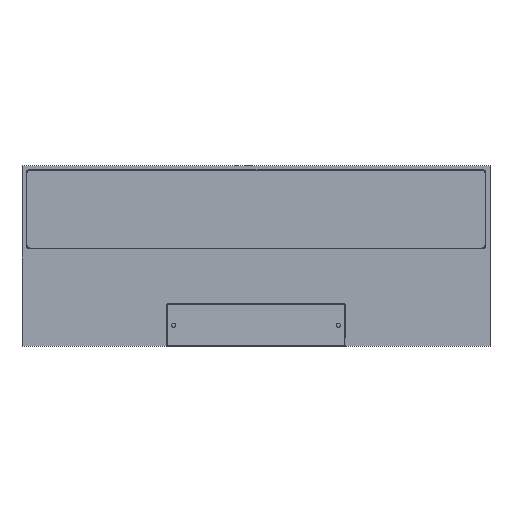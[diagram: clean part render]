
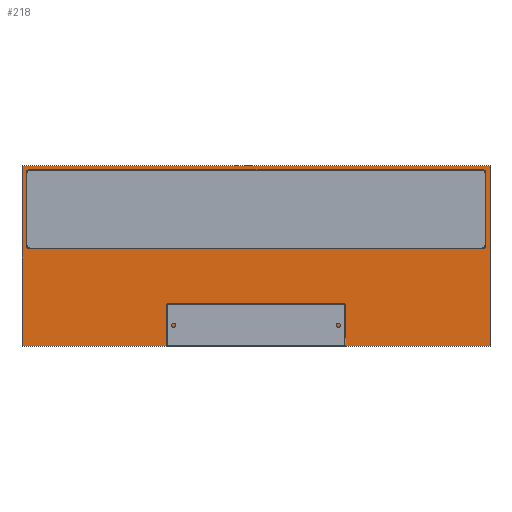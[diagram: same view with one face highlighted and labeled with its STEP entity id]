
A CAD part, top view. The second image highlights one B-rep face of the part: STEP entity #218.
In plain terms, the highlighted planar face has unit normal (0, 0, 1).
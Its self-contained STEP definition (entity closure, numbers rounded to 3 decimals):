
#33=DIRECTION('',(1.,0.,0.));
#34=VECTOR('',#33,375.);
#35=CARTESIAN_POINT('',(-187.5,-72.5,8.));
#36=LINE('',#35,#34);
#37=DIRECTION('',(0.,-1.,0.));
#38=VECTOR('',#37,145.);
#39=CARTESIAN_POINT('',(-187.5,72.5,8.));
#40=LINE('',#39,#38);
#41=DIRECTION('',(-1.,0.,0.));
#42=VECTOR('',#41,375.);
#43=CARTESIAN_POINT('',(187.5,72.5,8.));
#44=LINE('',#43,#42);
#45=DIRECTION('',(0.,1.,0.));
#46=VECTOR('',#45,145.);
#47=CARTESIAN_POINT('',(187.5,-72.5,8.));
#48=LINE('',#47,#46);
#49=DIRECTION('',(0.,-1.,0.));
#50=VECTOR('',#49,59.);
#51=CARTESIAN_POINT('',(-184.,67.,8.));
#52=LINE('',#51,#50);
#53=CARTESIAN_POINT('',(-182.,8.,8.));
#54=DIRECTION('',(0.,0.,1.));
#55=DIRECTION('',(-1.,0.,0.));
#56=AXIS2_PLACEMENT_3D('',#53,#54,#55);
#58=DIRECTION('',(1.,0.,0.));
#59=VECTOR('',#58,364.);
#60=CARTESIAN_POINT('',(-182.,6.,8.));
#61=LINE('',#60,#59);
#62=CARTESIAN_POINT('',(182.,8.,8.));
#63=DIRECTION('',(0.,0.,1.));
#64=DIRECTION('',(0.,-1.,0.));
#65=AXIS2_PLACEMENT_3D('',#62,#63,#64);
#67=DIRECTION('',(0.,1.,0.));
#68=VECTOR('',#67,59.);
#69=CARTESIAN_POINT('',(184.,8.,8.));
#70=LINE('',#69,#68);
#71=CARTESIAN_POINT('',(182.,67.,8.));
#72=DIRECTION('',(0.,0.,1.));
#73=DIRECTION('',(1.,0.,0.));
#74=AXIS2_PLACEMENT_3D('',#71,#72,#73);
#76=DIRECTION('',(-1.,0.,0.));
#77=VECTOR('',#76,364.);
#78=CARTESIAN_POINT('',(182.,69.,8.));
#79=LINE('',#78,#77);
#80=CARTESIAN_POINT('',(-182.,67.,8.));
#81=DIRECTION('',(0.,0.,1.));
#82=DIRECTION('',(0.,1.,0.));
#83=AXIS2_PLACEMENT_3D('',#80,#81,#82);
#93=CARTESIAN_POINT('',(-187.5,-72.5,8.));
#94=CARTESIAN_POINT('',(187.5,-72.5,8.));
#95=VERTEX_POINT('',#93);
#96=VERTEX_POINT('',#94);
#97=CARTESIAN_POINT('',(187.5,72.5,8.));
#98=VERTEX_POINT('',#97);
#99=CARTESIAN_POINT('',(-187.5,72.5,8.));
#100=VERTEX_POINT('',#99);
#101=CARTESIAN_POINT('',(-182.,6.,8.));
#102=CARTESIAN_POINT('',(182.,6.,8.));
#103=VERTEX_POINT('',#101);
#104=VERTEX_POINT('',#102);
#105=CARTESIAN_POINT('',(184.,8.,8.));
#106=CARTESIAN_POINT('',(184.,67.,8.));
#107=VERTEX_POINT('',#105);
#108=VERTEX_POINT('',#106);
#109=CARTESIAN_POINT('',(182.,69.,8.));
#110=CARTESIAN_POINT('',(-182.,69.,8.));
#111=VERTEX_POINT('',#109);
#112=VERTEX_POINT('',#110);
#113=CARTESIAN_POINT('',(-184.,67.,8.));
#114=CARTESIAN_POINT('',(-184.,8.,8.));
#115=VERTEX_POINT('',#113);
#116=VERTEX_POINT('',#114);
#189=CARTESIAN_POINT('',(0.,0.,8.));
#190=DIRECTION('',(0.,0.,1.));
#191=DIRECTION('',(1.,0.,0.));
#192=AXIS2_PLACEMENT_3D('',#189,#190,#191);
#193=PLANE('',#192);
#194=ORIENTED_EDGE('',*,*,#141,.F.);
#195=ORIENTED_EDGE('',*,*,#156,.F.);
#196=ORIENTED_EDGE('',*,*,#170,.F.);
#197=ORIENTED_EDGE('',*,*,#183,.F.);
#198=EDGE_LOOP('',(#194,#195,#196,#197));
#199=FACE_OUTER_BOUND('',#198,.F.);
#201=ORIENTED_EDGE('',*,*,#200,.T.);
#203=ORIENTED_EDGE('',*,*,#202,.T.);
#205=ORIENTED_EDGE('',*,*,#204,.T.);
#207=ORIENTED_EDGE('',*,*,#206,.T.);
#209=ORIENTED_EDGE('',*,*,#208,.T.);
#211=ORIENTED_EDGE('',*,*,#210,.T.);
#213=ORIENTED_EDGE('',*,*,#212,.T.);
#215=ORIENTED_EDGE('',*,*,#214,.T.);
#216=EDGE_LOOP('',(#201,#203,#205,#207,#209,#211,#213,#215));
#217=FACE_BOUND('',#216,.F.);
#218=ADVANCED_FACE('',(#199,#217),#193,.T.);
#57=CIRCLE('',#56,2.);
#66=CIRCLE('',#65,2.);
#75=CIRCLE('',#74,2.);
#84=CIRCLE('',#83,2.);
#141=EDGE_CURVE('',#95,#96,#36,.T.);
#156=EDGE_CURVE('',#100,#95,#40,.T.);
#170=EDGE_CURVE('',#98,#100,#44,.T.);
#183=EDGE_CURVE('',#96,#98,#48,.T.);
#200=EDGE_CURVE('',#115,#116,#52,.T.);
#202=EDGE_CURVE('',#116,#103,#57,.T.);
#204=EDGE_CURVE('',#103,#104,#61,.T.);
#206=EDGE_CURVE('',#104,#107,#66,.T.);
#208=EDGE_CURVE('',#107,#108,#70,.T.);
#210=EDGE_CURVE('',#108,#111,#75,.T.);
#212=EDGE_CURVE('',#111,#112,#79,.T.);
#214=EDGE_CURVE('',#112,#115,#84,.T.);
